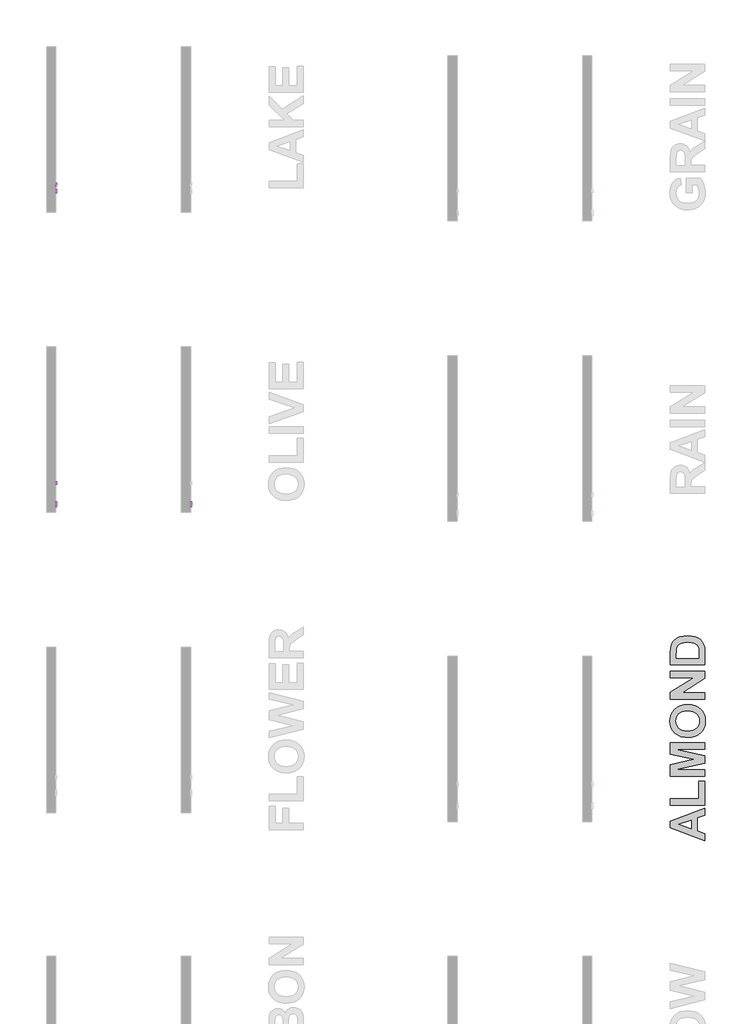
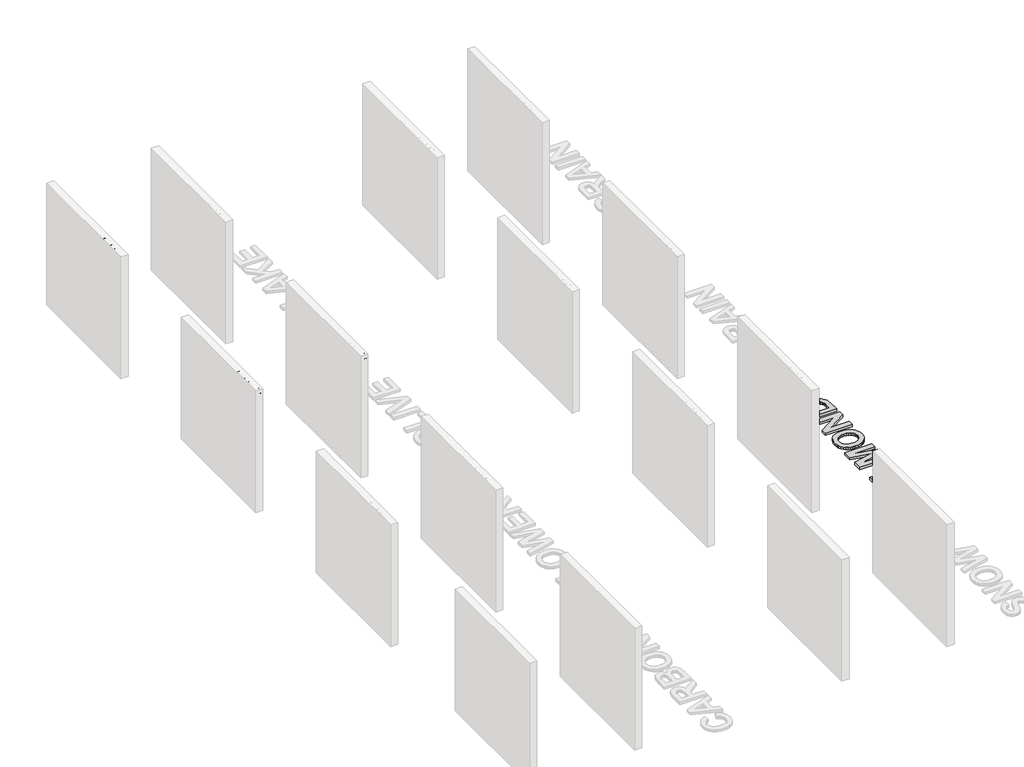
# One storey, part 7 of 10: 6 proxies.
"""IFC4 building model written with IfcOpenShell, lengths in millimetres."""

from ifc_helpers import new_model, si_unit, frame, origin, origin_with_axes, place, context, project, spatial, polyline, outline, extrude, element, save

model = new_model("IFC4")

# Units and contexts
model_context = context("Model", 3, world=origin())
ifc_project = project(units=[si_unit("LENGTHUNIT", "METRE", prefix="MILLI")], contexts=[model_context])

# Site, building, storey
site = spatial("IfcSite", under=ifc_project)
building = spatial("IfcBuilding", under=site)
storey = spatial("IfcBuildingStorey", under=building, Name="PORTOBELLO - SHOWROOM", Elevation=0.0)

# Proxies
placement = place(None, origin())
element("IfcBuildingElementProxy", 1, Name="10mm Arial", ObjectType="10mm Arial", at=placement, inside=storey, context=model_context, shape_type="SweptSolid", body=[
    extrude(outline(polyline([(733.6809212, 2567.3783476), (737.0286473, 2589.5922887), (747.0718258, 2606.3983645), (762.4063736, 2616.9749719), (781.6282079, 2620.5005077), (794.8045147, 2618.8450387), (806.6196581, 2613.8786317), (816.4298446, 2605.9507747), (823.5912808, 2595.4109556), (827.9690766, 2582.7680777), (829.4283418, 2568.5310445), (827.8924345, 2554.1039389), (823.2847125, 2541.2832514), (815.8596275, 2530.7250381), (805.8716314, 2523.0853553), (794.1576555, 2518.4500422), (781.5546315, 2516.9049378), (768.1759896, 2518.6125234), (756.2934012, 2523.7352802), (746.5077401, 2531.81029), (739.4198803, 2542.3746346), (733.6809212, 2567.3783476)]), holes=[polyline([(746.23796, 2567.2557202), (748.7487546, 2551.5410277), (756.2811384, 2539.5664687), (767.6027068, 2531.9880996), (781.4810551, 2529.4619766), (795.5617385, 2532.0126251), (806.901701, 2539.6645706), (814.3789025, 2552.0070115), (816.871303, 2568.6291463), (812.6038719, 2589.3531654), (800.1326723, 2603.0751638), (781.7017843, 2607.9434689), (768.1943837, 2605.5982212), (756.7103341, 2598.562478), (748.8560535, 2586.0452931), (746.23796, 2567.2557202)])]), frame((-30275.742133, 0.0, 0.0), z_axis=(1.0, 0.0, 0.0), x_axis=(0.0, 1.0, 0.0)), (0.0, 0.0, 1.0), 20.0),
    extrude(outline(polyline([(-30255.742133, 857.681679), (-30255.742133, 845.1246403), (-30275.742133, 845.1246403), (-30275.742133, 857.681679), (-30255.742133, 857.681679)])), frame((0.0, 0.0, 2518.4745677), z_axis=(0.0, 0.0, 1.0), x_axis=(1.0, 0.0, 0.0)), (0.0, 0.0, 1.0), 100.4563101),
    extrude(outline(polyline([(-30255.742133, 889.074276), (-30255.742133, 876.5172372), (-30275.742133, 876.5172372), (-30275.742133, 889.074276), (-30255.742133, 889.074276)])), frame((0.0, 0.0, 2518.4745677), z_axis=(0.0, 0.0, 1.0), x_axis=(1.0, 0.0, 0.0)), (0.0, 0.0, 1.0), 73.7726028),
    extrude(outline(polyline([(-30255.742133, 889.074276), (-30255.742133, 876.5172372), (-30275.742133, 876.5172372), (-30275.742133, 889.074276), (-30255.742133, 889.074276)])), frame((0.0, 0.0, 2606.373839), z_axis=(0.0, 0.0, 1.0), x_axis=(1.0, 0.0, 0.0)), (0.0, 0.0, 1.0), 12.5570388),
    extrude(outline(polyline([(926.0096283, 2518.4745677), (900.0616849, 2592.2471704), (913.3544876, 2592.2471704), (929.0753116, 2548.0522801), (933.8087266, 2533.1898475), (938.4440397, 2547.2184142), (954.2629655, 2592.2471704), (967.5557683, 2592.2471704), (941.9266559, 2518.4745677), (926.0096283, 2518.4745677)])), frame((-30275.742133, 0.0, 0.0), z_axis=(1.0, 0.0, 0.0), x_axis=(0.0, 1.0, 0.0)), (0.0, 0.0, 1.0), 20.0),
    extrude(outline(polyline([(1030.1938093, 2540.4493855), (1042.5055934, 2538.8797557), (1038.0695497, 2529.602998), (1030.990887, 2522.6684224), (1021.4290208, 2518.345809), (1009.5433666, 2516.9049378), (994.8096927, 2519.391207), (983.4727959, 2526.8500144), (976.2439147, 2538.7969822), (973.8342876, 2554.7477324), (976.2684402, 2571.2349771), (983.5708978, 2583.5651553), (994.7545104, 2591.253889), (1008.8321281, 2593.8168003), (1022.4713531, 2591.2600204), (1033.3698572, 2583.5896808), (1040.515965, 2571.2840281), (1042.8980009, 2554.8213088), (1042.8244245, 2551.4367944), (986.3913264, 2551.4367944), (988.5648959, 2542.0374095), (993.6140763, 2535.1273593), (1000.9012054, 2530.8783223), (1009.7886213, 2529.4619766), (1022.1004054, 2532.0862015), (1030.1938093, 2540.4493855)]), holes=[polyline([(986.3913264, 2563.9938332), (1030.3409621, 2563.9938332), (1025.3132415, 2575.3736496), (1017.9923898, 2579.7882335), (1008.7830772, 2581.2597615), (993.3197707, 2576.5631347), (988.4545313, 2571.0724959), (986.3913264, 2563.9938332)])]), frame((-30275.742133, 0.0, 0.0), z_axis=(1.0, 0.0, 0.0), x_axis=(0.0, 1.0, 0.0)), (0.0, 0.0, 1.0), 20.0),
])
element("IfcBuildingElementProxy", 2, Name="10mm Arial", ObjectType="10mm Arial", at=placement, inside=storey, context=model_context, shape_type="SweptSolid", body=[
    extrude(outline(polyline([(733.6809212, 2567.3783476), (737.0286473, 2589.5922887), (747.0718258, 2606.3983645), (762.4063736, 2616.9749719), (781.6282079, 2620.5005077), (794.8045147, 2618.8450387), (806.6196581, 2613.8786317), (816.4298446, 2605.9507747), (823.5912808, 2595.4109556), (827.9690766, 2582.7680777), (829.4283418, 2568.5310445), (827.8924345, 2554.1039389), (823.2847125, 2541.2832514), (815.8596275, 2530.7250381), (805.8716314, 2523.0853553), (794.1576555, 2518.4500422), (781.5546315, 2516.9049378), (768.1759896, 2518.6125234), (756.2934012, 2523.7352802), (746.5077401, 2531.81029), (739.4198803, 2542.3746346), (733.6809212, 2567.3783476)]), holes=[polyline([(746.23796, 2567.2557202), (748.7487546, 2551.5410277), (756.2811384, 2539.5664687), (767.6027068, 2531.9880996), (781.4810551, 2529.4619766), (795.5617385, 2532.0126251), (806.901701, 2539.6645706), (814.3789025, 2552.0070115), (816.871303, 2568.6291463), (812.6038719, 2589.3531654), (800.1326723, 2603.0751638), (781.7017843, 2607.9434689), (768.1943837, 2605.5982212), (756.7103341, 2598.562478), (748.8560535, 2586.0452931), (746.23796, 2567.2557202)])]), frame((-32475.742133, 0.0, 0.0), z_axis=(1.0, 0.0, 0.0), x_axis=(0.0, 1.0, 0.0)), (0.0, 0.0, 1.0), 20.0),
    extrude(outline(polyline([(-32455.742133, 857.681679), (-32455.742133, 845.1246403), (-32475.742133, 845.1246403), (-32475.742133, 857.681679), (-32455.742133, 857.681679)])), frame((0.0, 0.0, 2518.4745677), z_axis=(0.0, 0.0, 1.0), x_axis=(1.0, 0.0, 0.0)), (0.0, 0.0, 1.0), 100.4563101),
    extrude(outline(polyline([(-32455.742133, 889.074276), (-32455.742133, 876.5172372), (-32475.742133, 876.5172372), (-32475.742133, 889.074276), (-32455.742133, 889.074276)])), frame((0.0, 0.0, 2518.4745677), z_axis=(0.0, 0.0, 1.0), x_axis=(1.0, 0.0, 0.0)), (0.0, 0.0, 1.0), 73.7726028),
    extrude(outline(polyline([(-32455.742133, 889.074276), (-32455.742133, 876.5172372), (-32475.742133, 876.5172372), (-32475.742133, 889.074276), (-32455.742133, 889.074276)])), frame((0.0, 0.0, 2606.373839), z_axis=(0.0, 0.0, 1.0), x_axis=(1.0, 0.0, 0.0)), (0.0, 0.0, 1.0), 12.5570388),
    extrude(outline(polyline([(926.0096283, 2518.4745677), (900.0616849, 2592.2471704), (913.3544876, 2592.2471704), (929.0753116, 2548.0522801), (933.8087266, 2533.1898475), (938.4440397, 2547.2184142), (954.2629655, 2592.2471704), (967.5557683, 2592.2471704), (941.9266559, 2518.4745677), (926.0096283, 2518.4745677)])), frame((-32475.742133, 0.0, 0.0), z_axis=(1.0, 0.0, 0.0), x_axis=(0.0, 1.0, 0.0)), (0.0, 0.0, 1.0), 20.0),
    extrude(outline(polyline([(1030.1938093, 2540.4493855), (1042.5055934, 2538.8797557), (1038.0695497, 2529.602998), (1030.990887, 2522.6684224), (1021.4290208, 2518.345809), (1009.5433666, 2516.9049378), (994.8096927, 2519.391207), (983.4727959, 2526.8500144), (976.2439147, 2538.7969822), (973.8342876, 2554.7477324), (976.2684402, 2571.2349771), (983.5708978, 2583.5651553), (994.7545104, 2591.253889), (1008.8321281, 2593.8168003), (1022.4713531, 2591.2600204), (1033.3698572, 2583.5896808), (1040.515965, 2571.2840281), (1042.8980009, 2554.8213088), (1042.8244245, 2551.4367944), (986.3913264, 2551.4367944), (988.5648959, 2542.0374095), (993.6140763, 2535.1273593), (1000.9012054, 2530.8783223), (1009.7886213, 2529.4619766), (1022.1004054, 2532.0862015), (1030.1938093, 2540.4493855)]), holes=[polyline([(986.3913264, 2563.9938332), (1030.3409621, 2563.9938332), (1025.3132415, 2575.3736496), (1017.9923898, 2579.7882335), (1008.7830772, 2581.2597615), (993.3197707, 2576.5631347), (988.4545313, 2571.0724959), (986.3913264, 2563.9938332)])]), frame((-32475.742133, 0.0, 0.0), z_axis=(1.0, 0.0, 0.0), x_axis=(0.0, 1.0, 0.0)), (0.0, 0.0, 1.0), 20.0),
])
element("IfcBuildingElementProxy", 3, Name="10mm Arial", ObjectType="10mm Arial", at=placement, inside=storey, context=model_context, shape_type="SweptSolid", body=[
    extrude(outline(polyline([(5638.3898107, 2518.4745677), (5638.3898107, 2618.9308778), (5650.9468495, 2618.9308778), (5650.9468495, 2531.0316064), (5701.1750046, 2531.0316064), (5701.1750046, 2518.4745677), (5638.3898107, 2518.4745677)])), frame((-32475.742133, 0.0, 0.0), z_axis=(1.0, 0.0, 0.0), x_axis=(0.0, 1.0, 0.0)), (0.0, 0.0, 1.0), 20.0),
    extrude(outline(polyline([(5760.8209387, 2527.8923467), (5748.6440447, 2519.3820099), (5735.1918264, 2516.9049378), (5724.6979925, 2518.3948599), (5716.9571422, 2522.8646261), (5712.1838733, 2529.6520489), (5710.5927837, 2538.0949407), (5712.9962794, 2548.0277546), (5719.3115869, 2555.2382417), (5728.1039666, 2559.3585201), (5738.9687482, 2561.246981), (5760.7473623, 2565.563463), (5760.8209387, 2568.3593662), (5757.362848, 2577.6299925), (5743.481434, 2581.2597615), (5730.7772425, 2578.8440031), (5724.7194523, 2570.2723526), (5712.1624135, 2571.8419824), (5717.5948043, 2584.1047156), (5728.5331623, 2591.2906772), (5745.1001148, 2593.8168003), (5760.3181667, 2591.5849828), (5768.9143426, 2585.9809138), (5772.7648408, 2577.4583142), (5773.3779775, 2566.4709053), (5773.3779775, 2550.8481832), (5774.0156396, 2529.0327809), (5776.5172372, 2518.4745677), (5763.9601984, 2518.4745677), (5760.8209387, 2527.8923467)]), holes=[polyline([(5760.8209387, 2553.0064243), (5740.5629035, 2549.1559261), (5729.7594356, 2547.1203124), (5724.8666051, 2543.8093744), (5723.1498224, 2538.9778575), (5726.889956, 2532.1843033), (5737.8651022, 2529.4619766), (5750.5692938, 2532.4663462), (5758.7607996, 2539.738147), (5760.7473623, 2549.4502317), (5760.8209387, 2553.0064243)])]), frame((-32475.742133, 0.0, 0.0), z_axis=(1.0, 0.0, 0.0), x_axis=(0.0, 1.0, 0.0)), (0.0, 0.0, 1.0), 20.0),
    extrude(outline(polyline([(5790.6439058, 2518.4745677), (5790.6439058, 2618.9308778), (5803.2009446, 2618.9308778), (5803.2009446, 2564.9503264), (5831.3561799, 2592.2471704), (5848.7202101, 2592.2471704), (5820.2216182, 2564.6069699), (5850.28984, 2518.4745677), (5835.6236111, 2518.4745677), (5811.2207721, 2555.8759038), (5803.2009446, 2548.101331), (5803.2009446, 2518.4745677), (5790.6439058, 2518.4745677)])), frame((-32475.742133, 0.0, 0.0), z_axis=(1.0, 0.0, 0.0), x_axis=(0.0, 1.0, 0.0)), (0.0, 0.0, 1.0), 20.0),
    extrude(outline(polyline([(5912.927881, 2540.4493855), (5925.2396651, 2538.8797557), (5920.8036214, 2529.602998), (5913.7249587, 2522.6684224), (5904.1630925, 2518.345809), (5892.2774383, 2516.9049378), (5877.5437644, 2519.391207), (5866.2068676, 2526.8500144), (5858.9779864, 2538.7969822), (5856.5683593, 2554.7477324), (5859.0025119, 2571.2349771), (5866.3049695, 2583.5651553), (5877.4885821, 2591.253889), (5891.5661998, 2593.8168003), (5905.2054248, 2591.2600204), (5916.1039289, 2583.5896808), (5923.2500366, 2571.2840281), (5925.6320726, 2554.8213088), (5925.5584962, 2551.4367944), (5869.1253981, 2551.4367944), (5871.2989676, 2542.0374095), (5876.3481479, 2535.1273593), (5883.6352771, 2530.8783223), (5892.522693, 2529.4619766), (5904.8344771, 2532.0862015), (5912.927881, 2540.4493855)]), holes=[polyline([(5869.1253981, 2563.9938332), (5913.0750338, 2563.9938332), (5908.0473132, 2575.3736496), (5900.7264615, 2579.7882335), (5891.5171489, 2581.2597615), (5876.0538423, 2576.5631347), (5871.188603, 2571.0724959), (5869.1253981, 2563.9938332)])]), frame((-32475.742133, 0.0, 0.0), z_axis=(1.0, 0.0, 0.0), x_axis=(0.0, 1.0, 0.0)), (0.0, 0.0, 1.0), 20.0),
])
element("IfcBuildingElementProxy", 4, Name="10mm Arial Narrow", ObjectType="10mm Arial Narrow", at=placement, inside=storey, context=model_context, shape_type="SweptSolid", body=[
    extrude(outline(polyline([(1095.7037104, 2518.4745677), (1095.7037104, 2619.1931714), (1127.000595, 2619.1931714), (1143.2962966, 2617.3148507), (1154.7692827, 2607.8344075), (1159.0589611, 2590.8152987), (1157.2726527, 2578.7394731), (1151.9137275, 2569.1130794), (1142.1699387, 2562.811821), (1127.2290395, 2560.7114015), (1105.450672, 2560.7114015), (1105.450672, 2518.4745677), (1095.7037104, 2518.4745677)]), holes=[polyline([(1105.450672, 2572.0828568), (1128.422027, 2572.0828568), (1144.2862224, 2576.613671), (1149.3119995, 2590.2822617), (1146.837185, 2600.4480381), (1140.8595561, 2606.247988), (1128.1935825, 2607.8217162), (1105.450672, 2607.8217162), (1105.450672, 2572.0828568)])]), frame((-32475.742133, 0.0, 0.0), z_axis=(1.0, 0.0, 0.0), x_axis=(0.0, 1.0, 0.0)), (0.0, 0.0, 1.0), 20.0),
    extrude(outline(polyline([(1167.1814292, 2555.0256739), (1169.135898, 2571.6164494), (1174.9993046, 2583.5685342), (1183.8578714, 2590.7930888), (1194.7978205, 2593.2012737), (1205.6108561, 2590.7930888), (1214.4948055, 2583.5685342), (1220.4343603, 2571.8068198), (1222.4142119, 2555.7871552), (1220.4692615, 2538.6252687), (1214.6344104, 2526.4828135), (1205.7853622, 2519.2582589), (1194.7978205, 2516.8500741), (1183.9371923, 2519.2646046), (1175.0627614, 2526.5081962), (1169.1517622, 2538.4666267), (1167.1814292, 2555.0256739)]), holes=[polyline([(1176.9283908, 2555.0510566), (1178.2324277, 2542.4993052), (1182.1445383, 2533.6280471), (1187.985735, 2528.3547886), (1195.0770303, 2526.5970357), (1201.7971035, 2528.3706528), (1207.4891768, 2533.6915039), (1211.3727319, 2542.5786262), (1212.6672502, 2555.0510566), (1211.3632133, 2567.5647339), (1207.4511028, 2576.4233006), (1201.609906, 2581.6965592), (1194.5186107, 2583.454312), (1187.7509449, 2581.6870407), (1182.0683901, 2576.3852265), (1178.2133906, 2567.5171413), (1176.9283908, 2555.0510566)])]), frame((-32475.742133, 0.0, 0.0), z_axis=(1.0, 0.0, 0.0), x_axis=(0.0, 1.0, 0.0)), (0.0, 0.0, 1.0), 20.0),
    extrude(outline(polyline([(1293.8919306, 2526.5970357), (1295.5164243, 2516.8500741), (1288.1554376, 2516.8500741), (1279.8806733, 2518.9695306), (1275.5656121, 2524.7694804), (1274.3980073, 2539.4153056), (1274.3980073, 2581.8298184), (1266.2755393, 2581.8298184), (1266.2755393, 2585.0788056), (1264.6510457, 2580.2053248), (1257.0869973, 2581.8298184), (1251.0078376, 2579.5073002), (1247.136974, 2573.0220171), (1245.1571224, 2557.6147106), (1245.1571224, 2518.4745677), (1235.4101607, 2518.4745677), (1235.4101607, 2591.5767801), (1245.1571224, 2591.5767801), (1245.1571224, 2581.8805838), (1251.4012697, 2590.967595), (1257.7977133, 2593.2012737), (1266.2755393, 2591.5767801), (1274.3980073, 2591.5767801), (1274.3980073, 2607.8217162), (1284.144969, 2615.9441842), (1284.144969, 2591.5767801), (1293.8919306, 2591.5767801), (1293.8919306, 2581.8298184), (1284.144969, 2581.8298184), (1284.144969, 2537.1816269), (1285.0079812, 2529.1860724), (1289.6276349, 2526.5970357), (1293.8919306, 2526.5970357)])), frame((-32475.742133, 0.0, 0.0), z_axis=(1.0, 0.0, 0.0), x_axis=(0.0, 1.0, 0.0)), (0.0, 0.0, 1.0), 20.0),
    extrude(outline(polyline([(1300.3899051, 2555.0256739), (1302.344374, 2571.6164494), (1308.2077806, 2583.5685342), (1317.0663473, 2590.7930888), (1328.0062964, 2593.2012737), (1338.819332, 2590.7930888), (1347.7032814, 2583.5685342), (1353.6428362, 2571.8068198), (1355.6226878, 2555.7871552), (1353.6777374, 2538.6252687), (1347.8428864, 2526.4828135), (1338.9938382, 2519.2582589), (1328.0062964, 2516.8500741), (1317.1456683, 2519.2646046), (1308.2712374, 2526.5081962), (1302.3602382, 2538.4666267), (1300.3899051, 2555.0256739)]), holes=[polyline([(1310.1368667, 2555.0510566), (1311.4409036, 2542.4993052), (1315.3530142, 2533.6280471), (1321.1942109, 2528.3547886), (1328.2855063, 2526.5970357), (1335.0055794, 2528.3706528), (1340.6976528, 2533.6915039), (1344.5812078, 2542.5786262), (1345.8757261, 2555.0510566), (1344.5716893, 2567.5647339), (1340.6595787, 2576.4233006), (1334.8183819, 2581.6965592), (1327.7270866, 2583.454312), (1320.9594208, 2581.6870407), (1315.276866, 2576.3852265), (1311.4218666, 2567.5171413), (1310.1368667, 2555.0510566)])]), frame((-32475.742133, 0.0, 0.0), z_axis=(1.0, 0.0, 0.0), x_axis=(0.0, 1.0, 0.0)), (0.0, 0.0, 1.0), 20.0),
    extrude(outline(polyline([(1378.3655983, 2518.4745677), (1368.6186367, 2518.4745677), (1368.6186367, 2619.1931714), (1378.3655983, 2619.1931714), (1378.3655983, 2583.7842873), (1385.764659, 2590.8660641), (1394.9658924, 2593.2012737), (1407.847619, 2589.0004347), (1417.1250005, 2576.2710043), (1420.6024321, 2555.5840935), (1418.6701731, 2539.1297501), (1412.8733961, 2526.927011), (1404.5002738, 2519.3693083), (1394.8389788, 2516.8500741), (1385.4981406, 2519.4644935), (1378.3655983, 2527.2316035), (1378.3655983, 2518.4745677)]), holes=[polyline([(1378.3655983, 2555.5840935), (1380.4469807, 2538.3365403), (1386.3357701, 2529.6048872), (1394.7882134, 2526.5970357), (1400.730941, 2528.3865169), (1405.9692983, 2533.7549607), (1410.8554705, 2555.1779701), (1406.1469773, 2576.613671), (1400.9022743, 2581.7441518), (1394.5851517, 2583.454312), (1388.6075229, 2581.6648308), (1383.3152273, 2576.2963871), (1378.3655983, 2555.5840935)])]), frame((-32475.742133, 0.0, 0.0), z_axis=(1.0, 0.0, 0.0), x_axis=(0.0, 1.0, 0.0)), (0.0, 0.0, 1.0), 20.0),
    extrude(outline(polyline([(1472.5862276, 2541.2174782), (1482.3331893, 2539.5929846), (1478.6336589, 2529.706418), (1472.814672, 2522.5865671), (1465.1110188, 2518.2841973), (1455.7574891, 2516.8500741), (1444.1639351, 2519.2646046), (1435.0198129, 2526.5081962), (1429.0802582, 2538.3143304), (1427.1004066, 2554.4164888), (1429.0897767, 2571.0834124), (1435.057887, 2583.2639417), (1444.0719228, 2590.7169407), (1455.1990695, 2593.2012737), (1465.8820187, 2590.8026073), (1474.629536, 2583.6066083), (1480.4643871, 2571.8671037), (1482.4093374, 2555.8379207), (1482.3331893, 2552.5889335), (1436.8473682, 2552.5889335), (1442.8503798, 2533.1457756), (1448.780416, 2528.2342207), (1455.8844027, 2526.5970357), (1466.0628705, 2530.2521463), (1472.5862276, 2541.2174782)]), holes=[polyline([(1437.5073188, 2562.3358951), (1472.5862276, 2562.3358951), (1468.3219319, 2576.6009796), (1462.4965994, 2581.7409789), (1455.2752176, 2583.454312), (1443.0661328, 2577.7432017), (1437.5073188, 2562.3358951)])]), frame((-32475.742133, 0.0, 0.0), z_axis=(1.0, 0.0, 0.0), x_axis=(0.0, 1.0, 0.0)), (0.0, 0.0, 1.0), 20.0),
    extrude(outline(polyline([(-32455.742133, 1505.0760998), (-32455.742133, 1495.3291382), (-32475.742133, 1495.3291382), (-32475.742133, 1505.0760998), (-32455.742133, 1505.0760998)])), frame((0.0, 0.0, 2518.4745677), z_axis=(0.0, 0.0, 1.0), x_axis=(1.0, 0.0, 0.0)), (0.0, 0.0, 1.0), 100.7186038),
    extrude(outline(polyline([(-32455.742133, 1531.0679975), (-32455.742133, 1521.3210359), (-32475.742133, 1521.3210359), (-32475.742133, 1531.0679975), (-32455.742133, 1531.0679975)])), frame((0.0, 0.0, 2518.4745677), z_axis=(0.0, 0.0, 1.0), x_axis=(1.0, 0.0, 0.0)), (0.0, 0.0, 1.0), 100.7186038),
    extrude(outline(polyline([(1542.4394528, 2555.0256739), (1544.3939217, 2571.6164494), (1550.2573283, 2583.5685342), (1559.115895, 2590.7930888), (1570.0558442, 2593.2012737), (1580.8688797, 2590.7930888), (1589.7528292, 2583.5685342), (1595.6923839, 2571.8068198), (1597.6722355, 2555.7871552), (1595.7272852, 2538.6252687), (1589.8924341, 2526.4828135), (1581.0433859, 2519.2582589), (1570.0558442, 2516.8500741), (1559.195216, 2519.2646046), (1550.3207851, 2526.5081962), (1544.4097859, 2538.4666267), (1542.4394528, 2555.0256739)]), holes=[polyline([(1552.1864145, 2555.0510566), (1553.4904513, 2542.4993052), (1557.4025619, 2533.6280471), (1563.2437587, 2528.3547886), (1570.335054, 2526.5970357), (1577.0551272, 2528.3706528), (1582.7472005, 2533.6915039), (1586.6307555, 2542.5786262), (1587.9252739, 2555.0510566), (1586.621237, 2567.5647339), (1582.7091264, 2576.4233006), (1576.8679297, 2581.6965592), (1569.7766343, 2583.454312), (1563.0089686, 2581.6870407), (1557.3264138, 2576.3852265), (1553.4714143, 2567.5171413), (1552.1864145, 2555.0510566)])]), frame((-32475.742133, 0.0, 0.0), z_axis=(1.0, 0.0, 0.0), x_axis=(0.0, 1.0, 0.0)), (0.0, 0.0, 1.0), 20.0),
])
element("IfcBuildingElementProxy", 5, Name="10mm Arial Narrow", ObjectType="10mm Arial Narrow", at=placement, inside=storey, context=model_context, shape_type="SweptSolid", body=[
    extrude(outline(polyline([(5960.7037104, 2518.4745677), (5960.7037104, 2619.1931714), (5992.000595, 2619.1931714), (6008.2962966, 2617.3148507), (6019.7692827, 2607.8344075), (6024.0589611, 2590.8152987), (6022.2726527, 2578.7394731), (6016.9137275, 2569.1130794), (6007.1699387, 2562.811821), (5992.2290395, 2560.7114015), (5970.450672, 2560.7114015), (5970.450672, 2518.4745677), (5960.7037104, 2518.4745677)]), holes=[polyline([(5970.450672, 2572.0828568), (5993.422027, 2572.0828568), (6009.2862224, 2576.613671), (6014.3119995, 2590.2822617), (6011.837185, 2600.4480381), (6005.8595561, 2606.247988), (5993.1935825, 2607.8217162), (5970.450672, 2607.8217162), (5970.450672, 2572.0828568)])]), frame((-32475.742133, 0.0, 0.0), z_axis=(1.0, 0.0, 0.0), x_axis=(0.0, 1.0, 0.0)), (0.0, 0.0, 1.0), 20.0),
    extrude(outline(polyline([(6032.1814292, 2555.0256739), (6034.135898, 2571.6164494), (6039.9993046, 2583.5685342), (6048.8578714, 2590.7930888), (6059.7978205, 2593.2012737), (6070.6108561, 2590.7930888), (6079.4948055, 2583.5685342), (6085.4343603, 2571.8068198), (6087.4142119, 2555.7871552), (6085.4692615, 2538.6252687), (6079.6344104, 2526.4828135), (6070.7853622, 2519.2582589), (6059.7978205, 2516.8500741), (6048.9371923, 2519.2646046), (6040.0627614, 2526.5081962), (6034.1517622, 2538.4666267), (6032.1814292, 2555.0256739)]), holes=[polyline([(6041.9283908, 2555.0510566), (6043.2324277, 2542.4993052), (6047.1445383, 2533.6280471), (6052.985735, 2528.3547886), (6060.0770303, 2526.5970357), (6066.7971035, 2528.3706528), (6072.4891768, 2533.6915039), (6076.3727319, 2542.5786262), (6077.6672502, 2555.0510566), (6076.3632133, 2567.5647339), (6072.4511028, 2576.4233006), (6066.609906, 2581.6965592), (6059.5186107, 2583.454312), (6052.7509449, 2581.6870407), (6047.0683901, 2576.3852265), (6043.2133906, 2567.5171413), (6041.9283908, 2555.0510566)])]), frame((-32475.742133, 0.0, 0.0), z_axis=(1.0, 0.0, 0.0), x_axis=(0.0, 1.0, 0.0)), (0.0, 0.0, 1.0), 20.0),
    extrude(outline(polyline([(6158.8919306, 2526.5970357), (6160.5164243, 2516.8500741), (6153.1554376, 2516.8500741), (6144.8806733, 2518.9695306), (6140.5656121, 2524.7694804), (6139.3980073, 2539.4153056), (6139.3980073, 2581.8298184), (6131.2755393, 2581.8298184), (6131.2755393, 2585.0788056), (6129.6510457, 2580.2053248), (6122.0869973, 2581.8298184), (6116.0078376, 2579.5073002), (6112.136974, 2573.0220171), (6110.1571224, 2557.6147106), (6110.1571224, 2518.4745677), (6100.4101607, 2518.4745677), (6100.4101607, 2591.5767801), (6110.1571224, 2591.5767801), (6110.1571224, 2581.8805838), (6116.4012697, 2590.967595), (6122.7977133, 2593.2012737), (6131.2755393, 2591.5767801), (6139.3980073, 2591.5767801), (6139.3980073, 2607.8217162), (6149.144969, 2615.9441842), (6149.144969, 2591.5767801), (6158.8919306, 2591.5767801), (6158.8919306, 2581.8298184), (6149.144969, 2581.8298184), (6149.144969, 2537.1816269), (6150.0079812, 2529.1860724), (6154.6276349, 2526.5970357), (6158.8919306, 2526.5970357)])), frame((-32475.742133, 0.0, 0.0), z_axis=(1.0, 0.0, 0.0), x_axis=(0.0, 1.0, 0.0)), (0.0, 0.0, 1.0), 20.0),
    extrude(outline(polyline([(6165.3899051, 2555.0256739), (6167.344374, 2571.6164494), (6173.2077806, 2583.5685342), (6182.0663473, 2590.7930888), (6193.0062964, 2593.2012737), (6203.819332, 2590.7930888), (6212.7032814, 2583.5685342), (6218.6428362, 2571.8068198), (6220.6226878, 2555.7871552), (6218.6777374, 2538.6252687), (6212.8428864, 2526.4828135), (6203.9938382, 2519.2582589), (6193.0062964, 2516.8500741), (6182.1456683, 2519.2646046), (6173.2712374, 2526.5081962), (6167.3602382, 2538.4666267), (6165.3899051, 2555.0256739)]), holes=[polyline([(6175.1368667, 2555.0510566), (6176.4409036, 2542.4993052), (6180.3530142, 2533.6280471), (6186.1942109, 2528.3547886), (6193.2855063, 2526.5970357), (6200.0055794, 2528.3706528), (6205.6976528, 2533.6915039), (6209.5812078, 2542.5786262), (6210.8757261, 2555.0510566), (6209.5716893, 2567.5647339), (6205.6595787, 2576.4233006), (6199.8183819, 2581.6965592), (6192.7270866, 2583.454312), (6185.9594208, 2581.6870407), (6180.276866, 2576.3852265), (6176.4218666, 2567.5171413), (6175.1368667, 2555.0510566)])]), frame((-32475.742133, 0.0, 0.0), z_axis=(1.0, 0.0, 0.0), x_axis=(0.0, 1.0, 0.0)), (0.0, 0.0, 1.0), 20.0),
    extrude(outline(polyline([(6243.3655983, 2518.4745677), (6233.6186367, 2518.4745677), (6233.6186367, 2619.1931714), (6243.3655983, 2619.1931714), (6243.3655983, 2583.7842873), (6250.764659, 2590.8660641), (6259.9658924, 2593.2012737), (6272.847619, 2589.0004347), (6282.1250005, 2576.2710043), (6285.6024321, 2555.5840935), (6283.6701731, 2539.1297501), (6277.8733961, 2526.927011), (6269.5002738, 2519.3693083), (6259.8389788, 2516.8500741), (6250.4981406, 2519.4644935), (6243.3655983, 2527.2316035), (6243.3655983, 2518.4745677)]), holes=[polyline([(6243.3655983, 2555.5840935), (6245.4469807, 2538.3365403), (6251.3357701, 2529.6048872), (6259.7882134, 2526.5970357), (6265.730941, 2528.3865169), (6270.9692983, 2533.7549607), (6275.8554705, 2555.1779701), (6271.1469773, 2576.613671), (6265.9022743, 2581.7441518), (6259.5851517, 2583.454312), (6253.6075229, 2581.6648308), (6248.3152273, 2576.2963871), (6243.3655983, 2555.5840935)])]), frame((-32475.742133, 0.0, 0.0), z_axis=(1.0, 0.0, 0.0), x_axis=(0.0, 1.0, 0.0)), (0.0, 0.0, 1.0), 20.0),
    extrude(outline(polyline([(6337.5862276, 2541.2174782), (6347.3331893, 2539.5929846), (6343.6336589, 2529.706418), (6337.814672, 2522.5865671), (6330.1110188, 2518.2841973), (6320.7574891, 2516.8500741), (6309.1639351, 2519.2646046), (6300.0198129, 2526.5081962), (6294.0802582, 2538.3143304), (6292.1004066, 2554.4164888), (6294.0897767, 2571.0834124), (6300.057887, 2583.2639417), (6309.0719228, 2590.7169407), (6320.1990695, 2593.2012737), (6330.8820187, 2590.8026073), (6339.629536, 2583.6066083), (6345.4643871, 2571.8671037), (6347.4093374, 2555.8379207), (6347.3331893, 2552.5889335), (6301.8473682, 2552.5889335), (6307.8503798, 2533.1457756), (6313.780416, 2528.2342207), (6320.8844027, 2526.5970357), (6331.0628705, 2530.2521463), (6337.5862276, 2541.2174782)]), holes=[polyline([(6302.5073188, 2562.3358951), (6337.5862276, 2562.3358951), (6333.3219319, 2576.6009796), (6327.4965994, 2581.7409789), (6320.2752176, 2583.454312), (6308.0661328, 2577.7432017), (6302.5073188, 2562.3358951)])]), frame((-32475.742133, 0.0, 0.0), z_axis=(1.0, 0.0, 0.0), x_axis=(0.0, 1.0, 0.0)), (0.0, 0.0, 1.0), 20.0),
    extrude(outline(polyline([(-32455.742133, 6370.0760998), (-32455.742133, 6360.3291382), (-32475.742133, 6360.3291382), (-32475.742133, 6370.0760998), (-32455.742133, 6370.0760998)])), frame((0.0, 0.0, 2518.4745677), z_axis=(0.0, 0.0, 1.0), x_axis=(1.0, 0.0, 0.0)), (0.0, 0.0, 1.0), 100.7186038),
    extrude(outline(polyline([(-32455.742133, 6396.0679975), (-32455.742133, 6386.3210359), (-32475.742133, 6386.3210359), (-32475.742133, 6396.0679975), (-32455.742133, 6396.0679975)])), frame((0.0, 0.0, 2518.4745677), z_axis=(0.0, 0.0, 1.0), x_axis=(1.0, 0.0, 0.0)), (0.0, 0.0, 1.0), 100.7186038),
    extrude(outline(polyline([(6407.4394528, 2555.0256739), (6409.3939217, 2571.6164494), (6415.2573283, 2583.5685342), (6424.115895, 2590.7930888), (6435.0558442, 2593.2012737), (6445.8688797, 2590.7930888), (6454.7528292, 2583.5685342), (6460.6923839, 2571.8068198), (6462.6722355, 2555.7871552), (6460.7272852, 2538.6252687), (6454.8924341, 2526.4828135), (6446.0433859, 2519.2582589), (6435.0558442, 2516.8500741), (6424.195216, 2519.2646046), (6415.3207851, 2526.5081962), (6409.4097859, 2538.4666267), (6407.4394528, 2555.0256739)]), holes=[polyline([(6417.1864145, 2555.0510566), (6418.4904513, 2542.4993052), (6422.4025619, 2533.6280471), (6428.2437587, 2528.3547886), (6435.335054, 2526.5970357), (6442.0551272, 2528.3706528), (6447.7472005, 2533.6915039), (6451.6307555, 2542.5786262), (6452.9252739, 2555.0510566), (6451.621237, 2567.5647339), (6447.7091264, 2576.4233006), (6441.8679297, 2581.6965592), (6434.7766343, 2583.454312), (6428.0089686, 2581.6870407), (6422.3264138, 2576.3852265), (6418.4714143, 2567.5171413), (6417.1864145, 2555.0510566)])]), frame((-32475.742133, 0.0, 0.0), z_axis=(1.0, 0.0, 0.0), x_axis=(0.0, 1.0, 0.0)), (0.0, 0.0, 1.0), 20.0),
])
element("IfcBuildingElementProxy", 6, Name="550mm Arial", ObjectType="550mm Arial", at=placement, inside=storey, context=model_context, shape_type="SweptSolid", body=[
    extrude(outline(polyline([(-21883.4014648, -4182.0903248), (-21883.4014648, -4294.4023621), (-22008.0998359, -4338.3808055), (-22008.0998359, -4550.3402019), (-21883.4014648, -4593.7619562), (-21883.4014648, -4707.6048887), (-22444.5441347, -4502.743279), (-22444.5441347, -4388.9003465), (-21883.4014648, -4182.0903248)]), holes=[polyline([(-22106.0771275, -4372.6171886), (-22310.9387371, -4444.8476067), (-22106.0771275, -4516.1038188), (-22106.0771275, -4372.6171886)])]), origin_with_axes(), (0.0, 0.0, 1.0), 50.0),
    extrude(outline(polyline([(-21883.4014648, -4128.6481657), (-22444.5441347, -4128.6481657), (-22444.5441347, -4021.7638476), (-21981.3787564, -4021.7638476), (-21981.3787564, -3736.7389994), (-21883.4014648, -3736.7389994), (-21883.4014648, -4128.6481657)])), origin_with_axes(), (0.0, 0.0, 1.0), 50.0),
    extrude(outline(polyline([(-21883.4014648, -3656.5757608), (-22444.5441347, -3656.5757608), (-22444.5441347, -3473.4250283), (-22061.8203395, -3384.9114523), (-22444.5441347, -3296.3978764), (-22444.5441347, -3113.2471439), (-21883.4014648, -3113.2471439), (-21883.4014648, -3220.1314619), (-22325.1343106, -3224.5849752), (-21883.4014648, -3322.2839222), (-21883.4014648, -3447.3998102), (-22325.1343106, -3545.2379295), (-21883.4014648, -3549.6914427), (-21883.4014648, -3656.5757608)])), origin_with_axes(), (0.0, 0.0, 1.0), 50.0),
    extrude(outline(polyline([(-22160.4934925, -3024.1768788), (-22201.5667144, -3022.6024923), (-22239.1954221, -3017.8793327), (-22273.3796156, -3010.0074001), (-22304.119295, -2998.9866944), (-22344.6706207, -2976.7713178), (-22380.8728124, -2947.7017059), (-22410.4991135, -2913.6566846), (-22431.3227673, -2876.51508), (-22441.0039396, -2849.7766039), (-22447.9190628, -2821.0549227), (-22453.4511613, -2757.661945), (-22448.6540664, -2699.8184623), (-22434.2627819, -2648.0637673), (-22410.2773077, -2602.3978599), (-22376.6976438, -2562.8207401), (-22334.5762806, -2530.854605), (-22284.9657087, -2508.0216513), (-22227.8659279, -2494.3218791), (-22163.2769383, -2489.7552883), (-22099.1272113, -2494.287086), (-22042.3710121, -2507.882479), (-21993.0083408, -2530.5414673), (-21951.0391973, -2562.264051), (-21917.5508652, -2601.5802227), (-21893.630628, -2647.0199751), (-21879.2784857, -2698.5833082), (-21874.4944383, -2756.2702221), (-21879.25674, -2814.5660147), (-21893.5436453, -2866.5642613), (-21917.3551542, -2912.2649617), (-21950.6912666, -2951.6681161), (-21992.3777163, -2983.3906998), (-22041.2402372, -3006.0496881), (-22097.2788293, -3019.6450811), (-22160.4934925, -3024.1768788)]), holes=[polyline([(-22164.3903166, -2917.2925607), (-22120.0030546, -2914.4525762), (-22081.3392531, -2905.9326226), (-22048.3989119, -2891.7326999), (-22021.1820311, -2871.8528083), (-21999.8712743, -2847.5976877), (-21984.6493051, -2820.2720786), (-21975.5161237, -2789.8759808), (-21972.4717298, -2756.4093944), (-21975.494378, -2722.977601), (-21984.5623225, -2692.6858825), (-21999.6755632, -2665.5342387), (-22020.8341003, -2641.5226697), (-22048.0379337, -2621.8863295), (-22081.2870634, -2607.8603722), (-22120.5814895, -2599.4447979), (-22165.9212118, -2596.6396064), (-22210.6303097, -2599.3708626), (-22249.285413, -2607.5646311), (-22281.8865218, -2621.220912), (-22308.4336359, -2640.3397052), (-22329.0137382, -2663.9815978), (-22343.7138112, -2691.2071769), (-22352.5338551, -2722.0164424), (-22355.4738697, -2756.4093944), (-22352.499062, -2790.8371394), (-22343.5746389, -2821.7507842), (-22328.7006005, -2849.1503286), (-22307.8769468, -2873.0357727), (-22281.0601863, -2892.3981175), (-22248.2068278, -2906.2283637), (-22209.3168712, -2914.5265114), (-22164.3903166, -2917.2925607)])]), origin_with_axes(), (0.0, 0.0, 1.0), 50.0),
    extrude(outline(polyline([(-21883.4014648, -2400.6850232), (-22444.5441347, -2400.6850232), (-22444.5441347, -2288.6513305), (-22066.8305419, -2053.3109895), (-22444.5441347, -2053.3109895), (-22444.5441347, -1946.4266714), (-21883.4014648, -1946.4266714), (-21883.4014648, -2061.9396714), (-22255.548166, -2293.8007052), (-21883.4014648, -2293.8007052), (-21883.4014648, -2400.6850232)])), origin_with_axes(), (0.0, 0.0, 1.0), 50.0),
    extrude(outline(polyline([(-22444.5441347, -1839.5423533), (-22444.5441347, -1631.7581255), (-22441.8650682, -1569.8264568), (-22433.8278685, -1524.5954629), (-22425.116553, -1500.7100187), (-22413.5956969, -1478.5990213), (-22399.2653003, -1458.2624705), (-22382.125363, -1439.7003665), (-22340.8607793, -1408.5779633), (-22291.2458582, -1385.9102767), (-22231.1756189, -1372.0800304), (-22158.5450805, -1367.4699484), (-22094.1083106, -1371.7842893), (-22039.1352564, -1384.7273122), (-22009.9786618, -1396.4351811), (-21983.7446853, -1410.4045996), (-21960.4333268, -1426.6355678), (-21940.0445865, -1445.1280857), (-21914.5064714, -1479.8515719), (-21895.2311094, -1525.0129797), (-21886.3588759, -1568.95663), (-21883.4014648, -1625.6345448), (-21883.4014648, -1839.5423533), (-22444.5441347, -1839.5423533)]), holes=[polyline([(-22346.5668432, -1732.6580352), (-21981.3787564, -1732.6580352), (-21981.3787564, -1641.6393581), (-21982.7008931, -1597.6609147), (-21986.6673033, -1567.8780448), (-21995.7308987, -1540.7568449), (-22009.5611449, -1518.6806406), (-22030.9762809, -1500.9187772), (-22062.7945455, -1486.7406002), (-22106.5642305, -1477.4508499), (-22163.8336275, -1474.3542665), (-22220.3027838, -1477.4508499), (-22261.9500913, -1486.7406002), (-22292.4288227, -1501.5798455), (-22315.3922504, -1521.3249141), (-22331.4666498, -1546.5324949), (-22341.2782962, -1577.7592773), (-22345.2447064, -1615.5793469), (-22346.5668432, -1677.8241532), (-22346.5668432, -1732.6580352)])]), origin_with_axes(), (0.0, 0.0, 1.0), 50.0),
])

save(model, "model.ifc")
